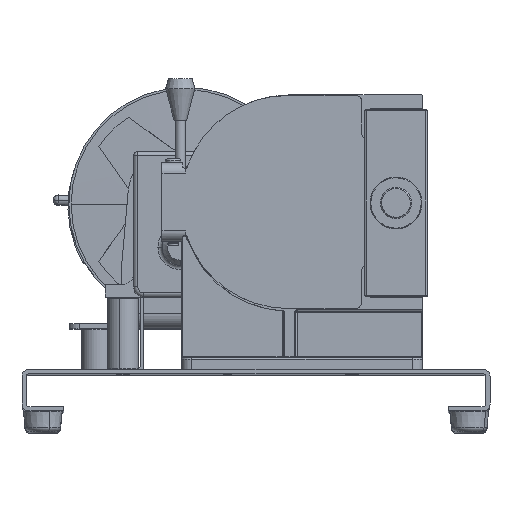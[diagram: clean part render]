
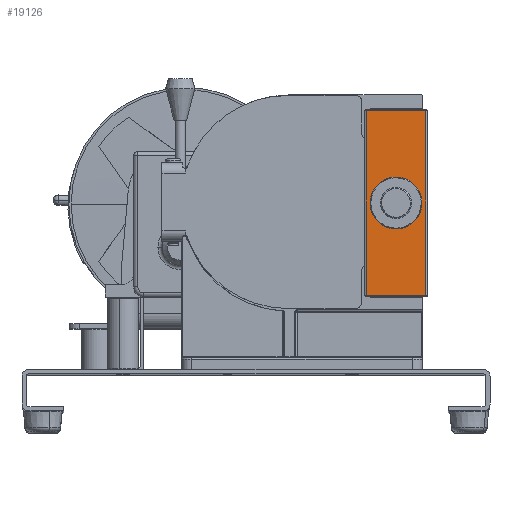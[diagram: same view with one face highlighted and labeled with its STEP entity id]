
A CAD part, top view. The second image highlights one B-rep face of the part: STEP entity #19126.
In plain terms, the highlighted planar face has unit normal (0, 0, 1).
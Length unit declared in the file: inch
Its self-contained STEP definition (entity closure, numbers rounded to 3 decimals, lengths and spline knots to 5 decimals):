
#3042 = PLANE ( 'NONE',  #5871 ) ;
#3043 = CARTESIAN_POINT ( 'NONE',  ( 0.49206, 3.55314, 2.3405 ) ) ;
#3044 = DIRECTION ( 'NONE',  ( 0., 0., -1. ) ) ;
#3045 = DIRECTION ( 'NONE',  ( 0., -1., 0. ) ) ;
#3765 = EDGE_CURVE ( 'NONE', #7693, #7682, #4223, .T. ) ;
#3774 = EDGE_CURVE ( 'NONE', #7691, #7693, #4220, .T. ) ;
#3841 = ORIENTED_EDGE ( 'NONE', *, *, #3774, .T. ) ;
#3874 = ORIENTED_EDGE ( 'NONE', *, *, #23420, .T. ) ;
#3889 = ORIENTED_EDGE ( 'NONE', *, *, #23419, .T. ) ;
#3910 = ORIENTED_EDGE ( 'NONE', *, *, #3765, .T. ) ;
#3917 = ORIENTED_EDGE ( 'NONE', *, *, #23421, .T. ) ;
#3932 = ORIENTED_EDGE ( 'NONE', *, *, #23422, .T. ) ;
#4220 = LINE ( 'NONE', #18178, #23884 ) ;
#4223 = LINE ( 'NONE', #17798, #23900 ) ;
#5871 = AXIS2_PLACEMENT_3D ( 'NONE', #3043, #3044, #3045 ) ;
#7623 = VERTEX_POINT ( 'NONE', #18080 ) ;
#7682 = VERTEX_POINT ( 'NONE', #18016 ) ;
#7691 = VERTEX_POINT ( 'NONE', #17953 ) ;
#7693 = VERTEX_POINT ( 'NONE', #17955 ) ;
#8176 = CIRCLE ( 'NONE', #8190, 0.26563 ) ;
#8187 = VECTOR ( 'NONE', #20303, 39.37008 ) ;
#8189 = VECTOR ( 'NONE', #20305, 39.37008 ) ;
#8190 = AXIS2_PLACEMENT_3D ( 'NONE', #20306, #20307, #20308 ) ;
#8191 = CIRCLE ( 'NONE', #8192, 0.26563 ) ;
#8192 = AXIS2_PLACEMENT_3D ( 'NONE', #20309, #20310, #20311 ) ;
#13629 = EDGE_LOOP ( 'NONE', ( #3932, #3917 ) ) ;
#13866 = EDGE_LOOP ( 'NONE', ( #3889, #3874, #3841, #3910 ) ) ;
#17797 = DIRECTION ( 'NONE',  ( 0., -1., 0. ) ) ;
#17798 = CARTESIAN_POINT ( 'NONE',  ( 0.52206, -0.94686, 2.3405 ) ) ;
#17953 = CARTESIAN_POINT ( 'NONE',  ( 1.96206, 3.52314, 2.3405 ) ) ;
#17955 = CARTESIAN_POINT ( 'NONE',  ( 0.52206, 3.52314, 2.3405 ) ) ;
#18016 = CARTESIAN_POINT ( 'NONE',  ( 0.52206, -0.91686, 2.3405 ) ) ;
#18080 = CARTESIAN_POINT ( 'NONE',  ( 1.96206, -0.91686, 2.3405 ) ) ;
#18178 = CARTESIAN_POINT ( 'NONE',  ( 0.49206, 3.52314, 2.3405 ) ) ;
#18217 = DIRECTION ( 'NONE',  ( -1., 0., 0. ) ) ;
#19126 = ADVANCED_FACE ( 'NONE', ( #21139, #21160 ), #3042, .F. ) ;
#20085 = CARTESIAN_POINT ( 'NONE',  ( 0.97643, 1.30314, 2.3405 ) ) ;
#20094 = CARTESIAN_POINT ( 'NONE',  ( 1.50768, 1.30314, 2.3405 ) ) ;
#20302 = CARTESIAN_POINT ( 'NONE',  ( 0.49206, -0.91686, 2.3405 ) ) ;
#20303 = DIRECTION ( 'NONE',  ( 1., 0., 0. ) ) ;
#20304 = CARTESIAN_POINT ( 'NONE',  ( 1.96206, 3.55314, 2.3405 ) ) ;
#20305 = DIRECTION ( 'NONE',  ( 0., 1., 0. ) ) ;
#20306 = CARTESIAN_POINT ( 'NONE',  ( 1.24206, 1.30314, 2.3405 ) ) ;
#20307 = DIRECTION ( 'NONE',  ( 0., 0., -1. ) ) ;
#20308 = DIRECTION ( 'NONE',  ( -1., 0., 0. ) ) ;
#20309 = CARTESIAN_POINT ( 'NONE',  ( 1.24206, 1.30314, 2.3405 ) ) ;
#20310 = DIRECTION ( 'NONE',  ( 0., 0., -1. ) ) ;
#20311 = DIRECTION ( 'NONE',  ( -1., 0., 0. ) ) ;
#20586 = LINE ( 'NONE', #20302, #8187 ) ;
#20958 = LINE ( 'NONE', #20304, #8189 ) ;
#21139 = FACE_OUTER_BOUND ( 'NONE', #13866, .T. ) ;
#21160 = FACE_BOUND ( 'NONE', #13629, .T. ) ;
#23189 = VERTEX_POINT ( 'NONE', #20085 ) ;
#23204 = VERTEX_POINT ( 'NONE', #20094 ) ;
#23419 = EDGE_CURVE ( 'NONE', #7682, #7623, #20586, .T. ) ;
#23420 = EDGE_CURVE ( 'NONE', #7623, #7691, #20958, .T. ) ;
#23421 = EDGE_CURVE ( 'NONE', #23204, #23189, #8176, .T. ) ;
#23422 = EDGE_CURVE ( 'NONE', #23189, #23204, #8191, .T. ) ;
#23884 = VECTOR ( 'NONE', #18217, 39.37008 ) ;
#23900 = VECTOR ( 'NONE', #17797, 39.37008 ) ;
